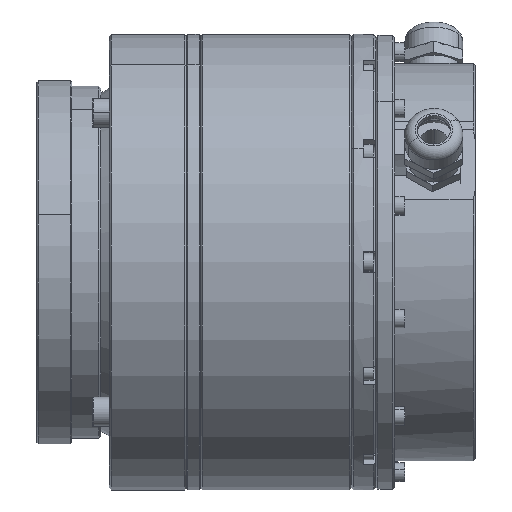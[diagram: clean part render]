
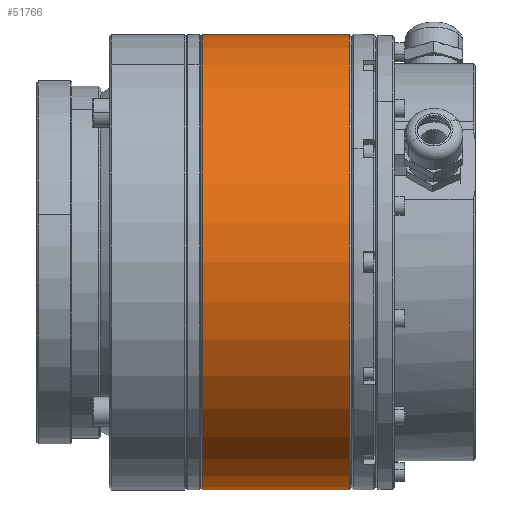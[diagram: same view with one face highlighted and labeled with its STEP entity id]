
A CAD part, front view. The second image highlights one B-rep face of the part: STEP entity #51766.
In plain terms, the highlighted cylindrical face has radius 55 mm (diameter 110 mm), a partial arc.
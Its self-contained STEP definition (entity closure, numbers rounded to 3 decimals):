
#2157 = DIRECTION ( 'NONE',  ( -1., 0., 0. ) ) ;
#5282 = CARTESIAN_POINT ( 'NONE',  ( 2.5, 0., 55. ) ) ;
#5639 = CARTESIAN_POINT ( 'NONE',  ( 2.5, 0., 0. ) ) ;
#5705 = EDGE_LOOP ( 'NONE', ( #37374, #21708, #25045, #24319 ) ) ;
#5916 = LINE ( 'NONE', #55910, #9608 ) ;
#6045 = DIRECTION ( 'NONE',  ( 1., 0., 0. ) ) ;
#8144 = EDGE_CURVE ( 'NONE', #9984, #55197, #22253, .T. ) ;
#9608 = VECTOR ( 'NONE', #2157, 1000. ) ;
#9984 = VERTEX_POINT ( 'NONE', #5282 ) ;
#10106 = AXIS2_PLACEMENT_3D ( 'NONE', #13039, #27086, #32391 ) ;
#10228 = AXIS2_PLACEMENT_3D ( 'NONE', #53784, #10418, #44611 ) ;
#10418 = DIRECTION ( 'NONE',  ( -1., 0., 0. ) ) ;
#11940 = VERTEX_POINT ( 'NONE', #21595 ) ;
#13039 = CARTESIAN_POINT ( 'NONE',  ( 38., 0., 0. ) ) ;
#18938 = AXIS2_PLACEMENT_3D ( 'NONE', #5639, #6045, #25569 ) ;
#19092 = EDGE_CURVE ( 'NONE', #11940, #47920, #41892, .T. ) ;
#19744 = VECTOR ( 'NONE', #41686, 1000. ) ;
#21595 = CARTESIAN_POINT ( 'NONE',  ( 38., 0., -55. ) ) ;
#21708 = ORIENTED_EDGE ( 'NONE', *, *, #19092, .T. ) ;
#21958 = CARTESIAN_POINT ( 'NONE',  ( 38.5, 0., 55. ) ) ;
#22253 = CIRCLE ( 'NONE', #18938, 55. ) ;
#24319 = ORIENTED_EDGE ( 'NONE', *, *, #8144, .T. ) ;
#25045 = ORIENTED_EDGE ( 'NONE', *, *, #31752, .T. ) ;
#25569 = DIRECTION ( 'NONE',  ( 0., 0., 1. ) ) ;
#27086 = DIRECTION ( 'NONE',  ( -1., 0., 0. ) ) ;
#27294 = CYLINDRICAL_SURFACE ( 'NONE', #10228, 55. ) ;
#31752 = EDGE_CURVE ( 'NONE', #47920, #9984, #37947, .T. ) ;
#32391 = DIRECTION ( 'NONE',  ( 0., 0., -1. ) ) ;
#37374 = ORIENTED_EDGE ( 'NONE', *, *, #59833, .F. ) ;
#37380 = CARTESIAN_POINT ( 'NONE',  ( 2.5, 0., -55. ) ) ;
#37947 = LINE ( 'NONE', #21958, #19744 ) ;
#41686 = DIRECTION ( 'NONE',  ( -1., 0., 0. ) ) ;
#41892 = CIRCLE ( 'NONE', #10106, 55. ) ;
#44611 = DIRECTION ( 'NONE',  ( 0., 0., 1. ) ) ;
#47920 = VERTEX_POINT ( 'NONE', #50399 ) ;
#50399 = CARTESIAN_POINT ( 'NONE',  ( 38., 0., 55. ) ) ;
#51766 = ADVANCED_FACE ( 'NONE', ( #63012 ), #27294, .T. ) ;
#53784 = CARTESIAN_POINT ( 'NONE',  ( 38.5, 0., 0. ) ) ;
#55197 = VERTEX_POINT ( 'NONE', #37380 ) ;
#55910 = CARTESIAN_POINT ( 'NONE',  ( 38.5, 0., -55. ) ) ;
#59833 = EDGE_CURVE ( 'NONE', #11940, #55197, #5916, .T. ) ;
#63012 = FACE_OUTER_BOUND ( 'NONE', #5705, .T. ) ;
